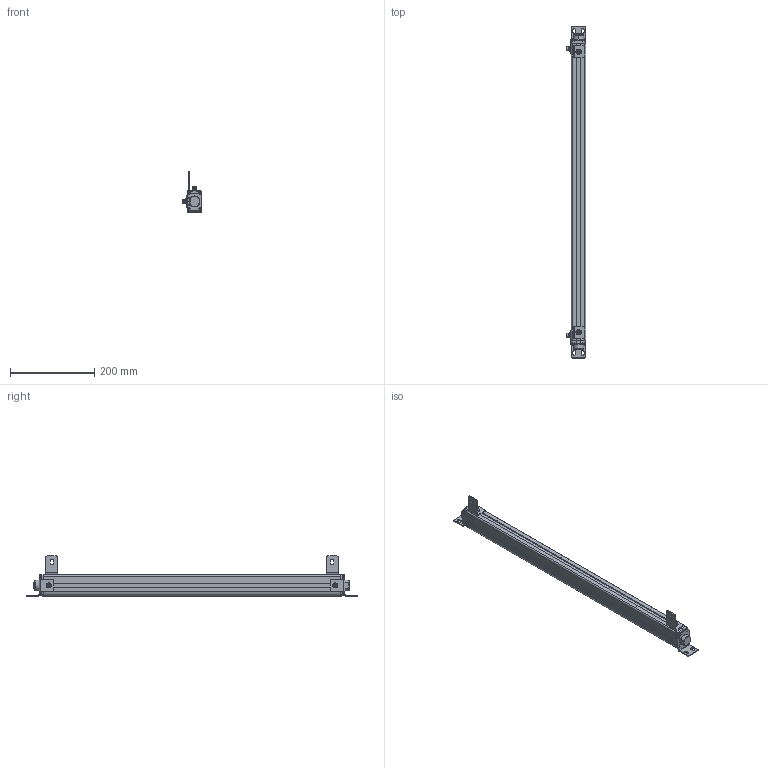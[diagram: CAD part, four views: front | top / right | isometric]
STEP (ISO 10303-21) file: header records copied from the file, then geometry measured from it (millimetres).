
FILE_DESCRIPTION((''),'2;1');
FILE_NAME('ESN--000_ASM','2021-08-10T21:25:13',('18720616900'),(''),'CREO PARAMETRIC BY PTC INC, 2019010','CREO PARAMETRIC BY PTC INC, 2019010','');
FILE_SCHEMA(('CONFIG_CONTROL_DESIGN'));
Length unit declared in the file: millimetre
Products named in the file (22): 00; 000; _0001; 4000; 4--0001; ESN_40001_ASM; L10001; M6-8--0001; M6-1--00; M6-1-00; M6-80001_ASM; L1--0001_ASM; _0002; 0005; ST-3-120001; H1--000; H1--0001_ASM; H1--0003_ASM; ESN--000_ASM
Assembly tree (34 placements, depth 4):
  ESN--000_ASM
    00
    000
    _0001
    000
    ESN_40001_ASM
      4000
      4--0001  x4
    L1--0001_ASM  x2
      L10001
      M6-80001_ASM
        M6-8--0001
        M6-1--00
        M6-1-00
        00
    _0002
    0005
    ST-3-120001  x8
    H1--0001_ASM
      H1--000
      M6-80001_ASM
        M6-8--0001
        M6-1--00
        M6-1-00
        00
    H1--0003_ASM
      H1--000
      M6-80001_ASM
        M6-8--0001
        M6-1--00
        M6-1-00
        00
Bounding box: 46.5 x 787 x 94.95 mm (x, y, z)
Volume: 1110776.2 mm3; surface area: 244668.7 mm2
Topology: 39 solids, 39 shells, 1727 faces, 4555 edges, 2925 vertices
Faces by surface type: plane 541, cylinder 404, bspline 362, cone 291, torus 105, sphere 24
Entity records: 45714 total; most frequent: CARTESIAN_POINT 24222, ORIENTED_EDGE 4766, DIRECTION 3842, EDGE_CURVE 2383, VERTEX_POINT 1546, AXIS2_PLACEMENT_3D 1400, VECTOR 1042, LINE 1042
